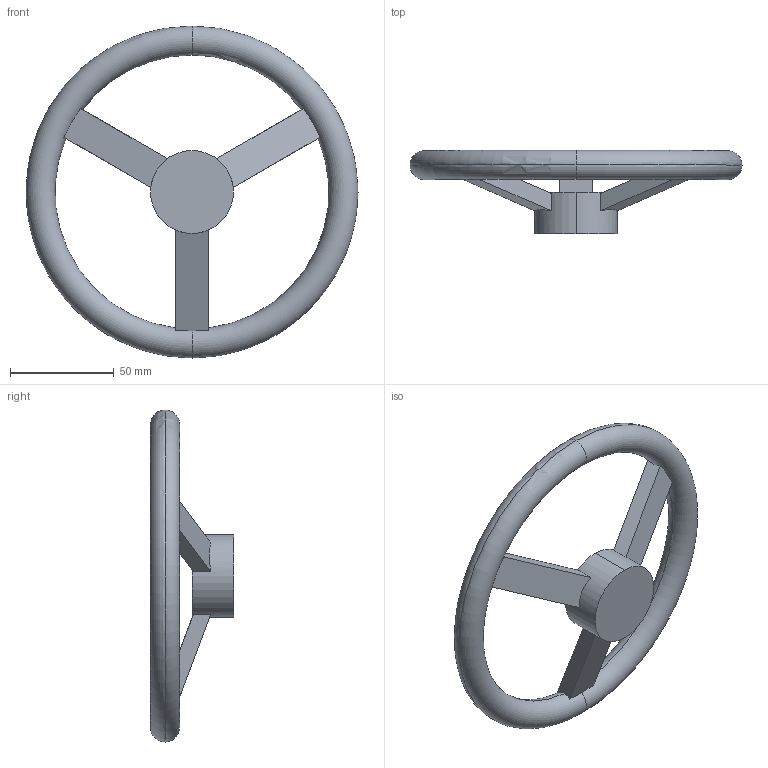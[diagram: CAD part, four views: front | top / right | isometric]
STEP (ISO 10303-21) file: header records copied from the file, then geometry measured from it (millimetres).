
FILE_DESCRIPTION (( 'STEP AP203' ), '1' );
FILE_NAME ('F12-612160.STEP', '2024-12-10T08:08:05', ( '' ), ( '' ), 'SwSTEP 2.0', 'SolidWorks 2021', '' );
FILE_SCHEMA (( 'CONFIG_CONTROL_DESIGN' ));
Length unit declared in the file: millimetre
Products named in the file (1): F12-612160
Bounding box: 160 x 40 x 160 mm (x, y, z)
Volume: 114502.6 mm3; surface area: 31636.1 mm2
Topology: 1 solids, 1 shells, 23 faces, 72 edges, 47 vertices
Faces by surface type: plane 17, torus 4, cylinder 2
Entity records: 1005 total; most frequent: CARTESIAN_POINT 339, ORIENTED_EDGE 144, DIRECTION 100, EDGE_CURVE 72, VERTEX_POINT 47, AXIS2_PLACEMENT_3D 38, B_SPLINE_CURVE_WITH_KNOTS 26, EDGE_LOOP 25
